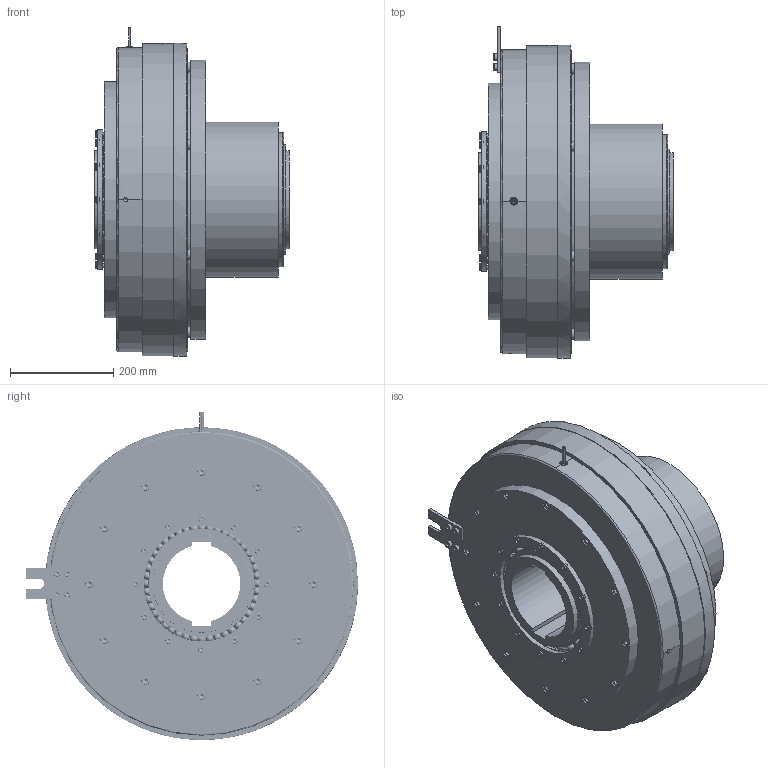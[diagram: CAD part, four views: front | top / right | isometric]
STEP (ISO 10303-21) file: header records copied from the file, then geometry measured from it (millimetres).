
FILE_DESCRIPTION(/* description */ (''),/* implementation_level */ '2;1');
FILE_NAME(/* name */ 'X:\INVENTOR\DISEGNI\08_Freni_Friz_Elettmag_Monodisco\08_26 EMSL_DF\EMSL_DF STEP\08_26_600_41 EMSL600_DF-R@STEP.stp',/* time_stamp */ '2018-04-24T09:58:32+02:00',/* author */ ('stefano'),/* organization */ (''),/* preprocessor_version */ 'ST-DEVELOPER v17',/* originating_system */ 'Autodesk Inventor 2018',/* authorisation */ '');
FILE_SCHEMA (('AUTOMOTIVE_DESIGN { 1 0 10303 214 3 1 1 }'));
Products named in the file (1): 08_26_600_41 EMSL600_DF-R_Substitute_1
Bounding box: 377 x 643 x 635.72 mm (x, y, z)
Volume: 42439256.6 mm3; surface area: 3898613.4 mm2
Topology: 1 solids, 1 shells, 1956 faces, 6847 edges, 4632 vertices
Faces by surface type: plane 729, cylinder 519, torus 416, sphere 168, cone 121, bspline 3
Full cylindrical faces by diameter (mm): 4 x4, 5 x18, 8 x12, 8.376 x1, 8.5 x12, 10 x12, 13 x16, 13.5 x12, 13.835 x8, 14 x16, 15 x1, 16 x24, 16.5 x12, 17.294 x8, 19.8 x16, 20 x16, 22 x16, 24 x8, 105 x8, 185 x2, 190 x6, 206 x9, 212.4 x10, 218 x1, 224 x8, 226 x2, 237.6 x10, 240 x1, 260 x5, 270 x1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
Entity records: 103738 total; most frequent: CARTESIAN_POINT 45247, ORIENTED_EDGE 12928, DIRECTION 11751, EDGE_CURVE 6464, AXIS2_PLACEMENT_3D 5059, VERTEX_POINT 4632, CIRCLE 3105, EDGE_LOOP 2636
